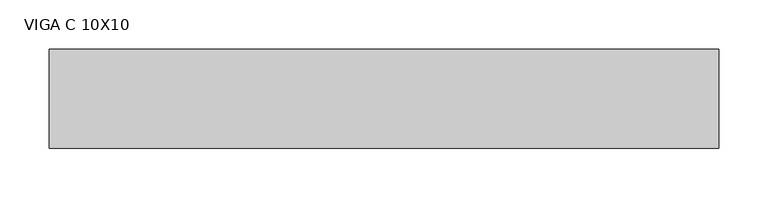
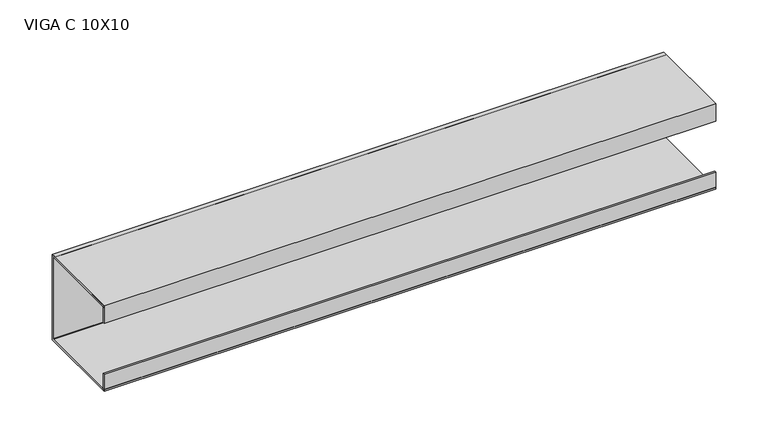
"""IFC4 building model written with IfcOpenShell, lengths in millimetres: beam geometry, VIGA PERFIL C AÇO : VIGA C 10X10."""

from ifc_helpers import new_model, si_unit, point, frame, frame_2d, origin, place, context, project, spatial, polyline, circle_curve, trimmed, segment, composite_curve, outline, extrude, source, transform, mapped, element, save


def viga_c_10x10_3c9f5f1a(model_context):
    return source(origin(), model_context, "Body", "SweptSolid", [
        extrude(outline(polyline([(9.2, -50.0), (-90.8, -50.0), (-90.8, -30.0), (-88.9, -30.0), (-88.9, -48.1), (7.3, -48.1), (7.3, 48.1), (-88.9, 48.1), (-88.9, 30.0), (-90.8, 30.0), (-90.8, 50.0), (9.2, 50.0), (9.2, -50.0)])), frame((-339.5, 0.0, 0.0), z_axis=(1.0, 0.0, 0.0), x_axis=(0.0, 1.0, 0.0)), (0.0, 0.0, 1.0), 677.0),
        extrude(outline(composite_curve([segment(trimmed(circle_curve(frame_2d((5.4, -46.2)), 3.8), [point((9.2, -46.2))], [point((5.4, -50.0))], False, "CARTESIAN"), True, "CONTINUOUS"), segment(polyline([(5.4, -50.0), (-87.0, -50.0)]), True, "CONTINUOUS"), segment(trimmed(circle_curve(frame_2d((-87.0, -46.2)), 3.8), [point((-87.0, -50.0))], [point((-90.8, -46.2))], False, "CARTESIAN"), True, "CONTINUOUS"), segment(polyline([(-90.8, -46.2), (-90.8, -30.0), (-88.9, -30.0), (-88.9, -46.2)]), True, "CONTINUOUS"), segment(trimmed(circle_curve(frame_2d((-87.0, -46.2)), 1.9), [point((-88.9, -46.2))], [point((-87.0, -48.1))], True, "CARTESIAN"), True, "CONTINUOUS"), segment(polyline([(-87.0, -48.1), (5.4, -48.1)]), True, "CONTINUOUS"), segment(trimmed(circle_curve(frame_2d((5.4, -46.2)), 1.9), [point((5.4, -48.1))], [point((7.3, -46.2))], True, "CARTESIAN"), True, "CONTINUOUS"), segment(polyline([(7.3, -46.2), (7.3, 46.2)]), True, "CONTINUOUS"), segment(trimmed(circle_curve(frame_2d((5.4, 46.2)), 1.9), [point((7.3, 46.2))], [point((5.4, 48.1))], True, "CARTESIAN"), True, "CONTINUOUS"), segment(polyline([(5.4, 48.1), (-87.0, 48.1)]), True, "CONTINUOUS"), segment(trimmed(circle_curve(frame_2d((-87.0, 46.2)), 1.9), [point((-87.0, 48.1))], [point((-88.9, 46.2))], True, "CARTESIAN"), True, "CONTINUOUS"), segment(polyline([(-88.9, 46.2), (-88.9, 30.0), (-90.8, 30.0), (-90.8, 46.2)]), True, "CONTINUOUS"), segment(trimmed(circle_curve(frame_2d((-87.0, 46.2)), 3.8), [point((-90.8, 46.2))], [point((-87.0, 50.0))], False, "CARTESIAN"), True, "CONTINUOUS"), segment(polyline([(-87.0, 50.0), (5.4, 50.0)]), True, "CONTINUOUS"), segment(trimmed(circle_curve(frame_2d((5.4, 46.2)), 3.8), [point((5.4, 50.0))], [point((9.2, 46.2))], False, "CARTESIAN"), True, "CONTINUOUS"), segment(polyline([(9.2, 46.2), (9.2, -46.2)]), True, "CONTINUOUS")], self_intersect=False)), frame((-339.5, 0.0, 0.0), z_axis=(1.0, 0.0, 0.0), x_axis=(0.0, 1.0, 0.0)), (0.0, 0.0, 1.0), 677.0),
    ])


if __name__ == "__main__":
    model = new_model("IFC4")
    model_context = context("Model", 3, world=origin())
    ifc_project = project(units=[si_unit("LENGTHUNIT", "METRE", prefix="MILLI")], contexts=[model_context])
    site = spatial("IfcSite", under=ifc_project)
    building = spatial("IfcBuilding", under=site)
    placement = place(None, origin())
    viga_c_10x10_shape = viga_c_10x10_3c9f5f1a(model_context)
    element("IfcBeam", 1, ObjectType="VIGA PERFIL C AÇO : VIGA C 10X10", at=placement, inside=building, context=model_context, shape_type="MappedRepresentation", body=[
        mapped(viga_c_10x10_shape, transform((0.0, 0.0, 0.0), x_axis=(1.0, 0.0, 0.0), y_axis=(0.0, 1.0, 0.0), z_axis=(0.0, 0.0, 1.0))),
    ])
    save(model, "model.ifc")
